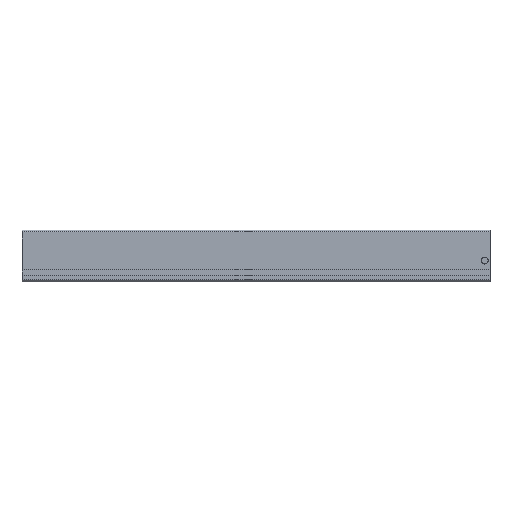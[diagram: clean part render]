
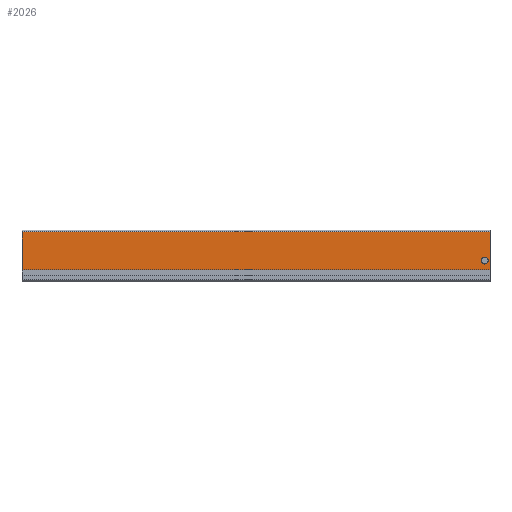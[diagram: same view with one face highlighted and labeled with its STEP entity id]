
A CAD part, top view. The second image highlights one B-rep face of the part: STEP entity #2026.
In plain terms, the highlighted planar face has unit normal (0, 0, 1).
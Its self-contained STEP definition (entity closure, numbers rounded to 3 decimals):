
#28 = VECTOR ( 'NONE', #143, 1000. ) ;
#70 = FACE_OUTER_BOUND ( 'NONE', #1983, .T. ) ;
#115 = ORIENTED_EDGE ( 'NONE', *, *, #887, .T. ) ;
#134 = EDGE_CURVE ( 'NONE', #229, #1299, #390, .T. ) ;
#143 = DIRECTION ( 'NONE',  ( 1., 0., 0. ) ) ;
#189 = DIRECTION ( 'NONE',  ( -1., 0., 0. ) ) ;
#225 = ORIENTED_EDGE ( 'NONE', *, *, #2305, .T. ) ;
#229 = VERTEX_POINT ( 'NONE', #527 ) ;
#240 = VECTOR ( 'NONE', #881, 1000. ) ;
#250 = EDGE_CURVE ( 'NONE', #1626, #1299, #1462, .T. ) ;
#266 = DIRECTION ( 'NONE',  ( 0., 0., 1. ) ) ;
#274 = PLANE ( 'NONE',  #2320 ) ;
#390 = LINE ( 'NONE', #496, #28 ) ;
#442 = ORIENTED_EDGE ( 'NONE', *, *, #731, .F. ) ;
#492 = VECTOR ( 'NONE', #1988, 1000. ) ;
#496 = CARTESIAN_POINT ( 'NONE',  ( 0., 6.6, 0. ) ) ;
#527 = CARTESIAN_POINT ( 'NONE',  ( 0., 6.6, 0. ) ) ;
#654 = CARTESIAN_POINT ( 'NONE',  ( 250., 6.6, 0. ) ) ;
#675 = VERTEX_POINT ( 'NONE', #1015 ) ;
#716 = CARTESIAN_POINT ( 'NONE',  ( 0., 0., 0. ) ) ;
#731 = EDGE_CURVE ( 'NONE', #1425, #675, #1262, .T. ) ;
#737 = ORIENTED_EDGE ( 'NONE', *, *, #2040, .F. ) ;
#793 = DIRECTION ( 'NONE',  ( -1., 0., 0. ) ) ;
#803 = CARTESIAN_POINT ( 'NONE',  ( 250., 0., 0. ) ) ;
#817 = DIRECTION ( 'NONE',  ( -1., 0., 0. ) ) ;
#844 = LINE ( 'NONE', #1238, #240 ) ;
#881 = DIRECTION ( 'NONE',  ( -1., 0., 0. ) ) ;
#887 = EDGE_CURVE ( 'NONE', #2244, #229, #1458, .T. ) ;
#901 = AXIS2_PLACEMENT_3D ( 'NONE', #2082, #266, #793 ) ;
#1015 = CARTESIAN_POINT ( 'NONE',  ( 245.3, 11.392, 0. ) ) ;
#1160 = DIRECTION ( 'NONE',  ( 0., 0., -1. ) ) ;
#1238 = CARTESIAN_POINT ( 'NONE',  ( 250., 26.7, 0. ) ) ;
#1262 = CIRCLE ( 'NONE', #2054, 1.85 ) ;
#1289 = EDGE_LOOP ( 'NONE', ( #737, #442 ) ) ;
#1299 = VERTEX_POINT ( 'NONE', #654 ) ;
#1335 = ORIENTED_EDGE ( 'NONE', *, *, #134, .T. ) ;
#1405 = VECTOR ( 'NONE', #1813, 1000. ) ;
#1425 = VERTEX_POINT ( 'NONE', #2145 ) ;
#1458 = LINE ( 'NONE', #716, #492 ) ;
#1462 = LINE ( 'NONE', #2321, #1405 ) ;
#1474 = CIRCLE ( 'NONE', #901, 1.85 ) ;
#1518 = CARTESIAN_POINT ( 'NONE',  ( 250., 26.7, 0. ) ) ;
#1519 = ORIENTED_EDGE ( 'NONE', *, *, #250, .F. ) ;
#1626 = VERTEX_POINT ( 'NONE', #1518 ) ;
#1813 = DIRECTION ( 'NONE',  ( 0., -1., 0. ) ) ;
#1951 = CARTESIAN_POINT ( 'NONE',  ( 0., 26.7, 0. ) ) ;
#1966 = CARTESIAN_POINT ( 'NONE',  ( 247.15, 11.392, 0. ) ) ;
#1983 = EDGE_LOOP ( 'NONE', ( #1519, #225, #115, #1335 ) ) ;
#1988 = DIRECTION ( 'NONE',  ( 0., -1., 0. ) ) ;
#2026 = ADVANCED_FACE ( 'NONE', ( #2226, #70 ), #274, .F. ) ;
#2040 = EDGE_CURVE ( 'NONE', #675, #1425, #1474, .T. ) ;
#2054 = AXIS2_PLACEMENT_3D ( 'NONE', #1966, #2304, #189 ) ;
#2082 = CARTESIAN_POINT ( 'NONE',  ( 247.15, 11.392, 0. ) ) ;
#2145 = CARTESIAN_POINT ( 'NONE',  ( 249., 11.392, 0. ) ) ;
#2226 = FACE_BOUND ( 'NONE', #1289, .T. ) ;
#2244 = VERTEX_POINT ( 'NONE', #1951 ) ;
#2304 = DIRECTION ( 'NONE',  ( 0., 0., 1. ) ) ;
#2305 = EDGE_CURVE ( 'NONE', #1626, #2244, #844, .T. ) ;
#2320 = AXIS2_PLACEMENT_3D ( 'NONE', #803, #1160, #817 ) ;
#2321 = CARTESIAN_POINT ( 'NONE',  ( 250., 0., 0. ) ) ;
